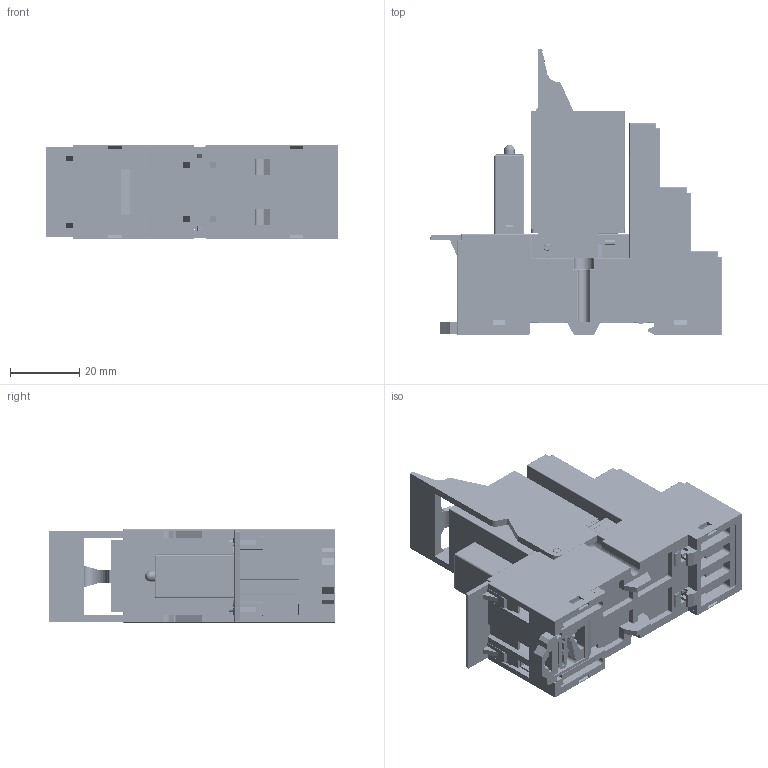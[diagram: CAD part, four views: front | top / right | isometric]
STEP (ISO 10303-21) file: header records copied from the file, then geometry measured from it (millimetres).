
FILE_DESCRIPTION (( 'STEP AP214' ), '1' );
FILE_NAME ('18. IR-4CO_IR-B4-SC-2_IR-RB-2_IR-MP-2_IR-FM-LD.STEP', '2023-06-08T06:02:32', ( '' ), ( '' ), 'SwSTEP 2.0', 'SolidWorks 2022', '' );
FILE_SCHEMA (( 'AUTOMOTIVE_DESIGN' ));
Length unit declared in the file: millimetre
Products named in the file (6): IR-4CO; IR-FM-LD; IR-B4-SC-2; IR-RB-2 (DKC); IR-MP-2 (DKC); 18. IR-4CO_IR-B4-SC-2_IR-RB-2_IR-MP-2_IR-FM-LD
Assembly tree (5 placements, depth 2):
  18. IR-4CO_IR-B4-SC-2_IR-RB-2_IR-MP-2_IR-FM-LD
    IR-B4-SC-2
    IR-4CO
    IR-RB-2 (DKC)
    IR-MP-2 (DKC)
    IR-FM-LD
Bounding box: 84.2 x 82.2 x 26.9 mm (x, y, z)
Volume: 67511.1 mm3; surface area: 58020.5 mm2
Topology: 29 solids, 32 shells, 6495 faces, 17055 edges, 10781 vertices
Faces by surface type: plane 3728, cylinder 1031, bspline 994, cone 737, sphere 5
Entity records: 280956 total; most frequent: CARTESIAN_POINT 65420, ORIENTED_EDGE 33968, DIRECTION 30683, EDGE_CURVE 16984, LINE 11665, VECTOR 11665, VERTEX_POINT 10779, AXIS2_PLACEMENT_3D 9509
